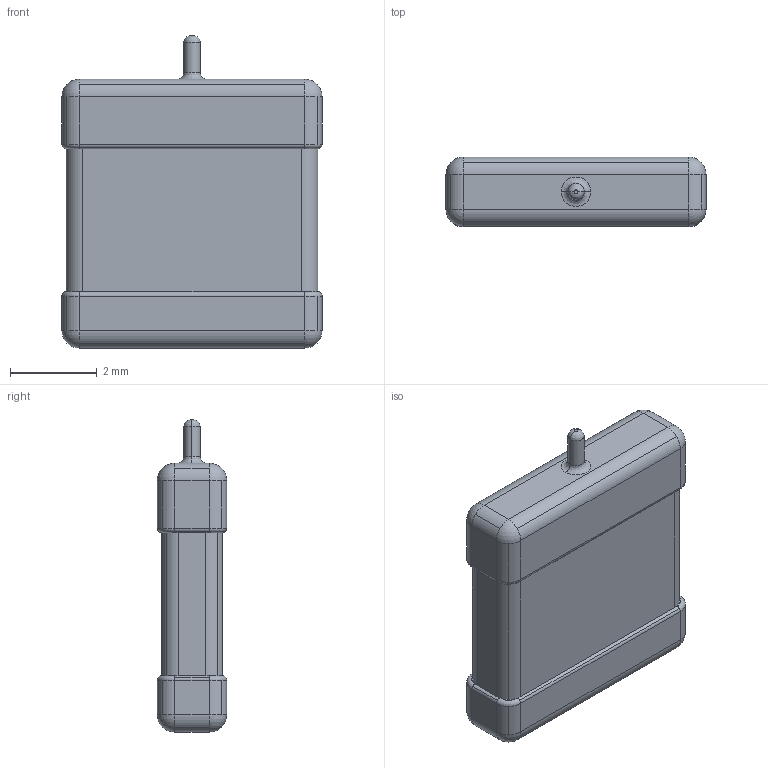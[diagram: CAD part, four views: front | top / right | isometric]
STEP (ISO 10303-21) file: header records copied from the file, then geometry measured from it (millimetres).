
FILE_DESCRIPTION((''),'2;1');
FILE_NAME('591D_R-case_16H.stp','2019-05-13T13:32:28',(''),(''),'AutoCAD STEP 2000i','AutoCAD 2000i',', , ');
FILE_SCHEMA(('CONFIG_CONTROL_DESIGN'));
Length unit declared in the file: millimetre
Products named in the file (2): 591D_R-CASE_16H; MODEL
Assembly tree (1 placements, depth 2):
  591D_R-CASE_16H
    MODEL
Bounding box: 6 x 1.6 x 7.2 mm (x, y, z)
Volume: 52.9 mm3; surface area: 104 mm2
Topology: 1 solids, 1 shells, 101 faces, 242 edges, 136 vertices
Faces by surface type: cylinder 58, plane 23, torus 8, sphere 8, bspline 4
Entity records: 3129 total; most frequent: CARTESIAN_POINT 649, DIRECTION 564, ORIENTED_EDGE 468, EDGE_CURVE 234, AXIS2_PLACEMENT_3D 231, VERTEX_POINT 136, CIRCLE 132, VECTOR 102
